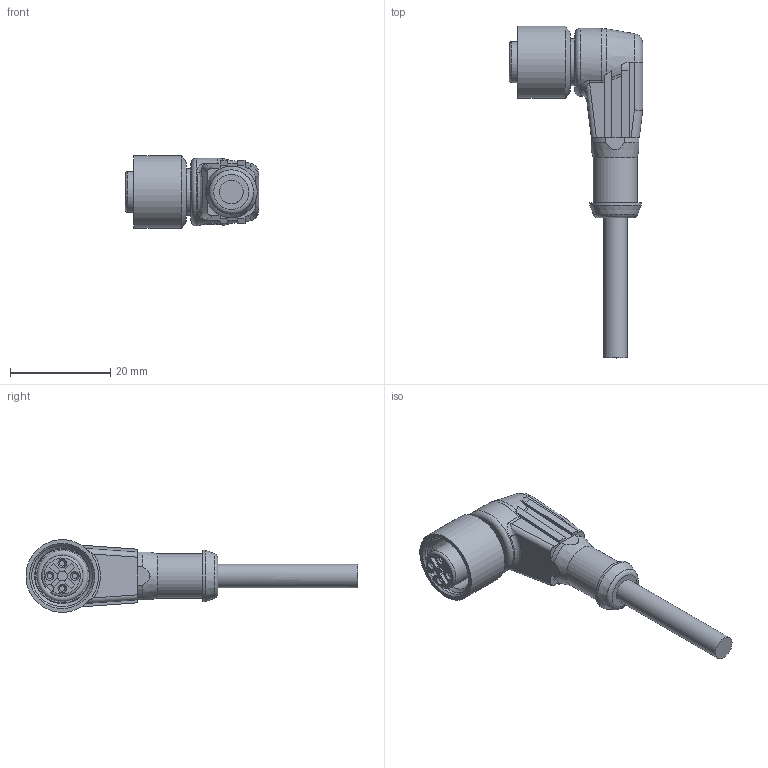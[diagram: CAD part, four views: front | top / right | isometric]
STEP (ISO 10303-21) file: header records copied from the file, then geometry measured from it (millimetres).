
FILE_DESCRIPTION( ( 'Unknown' ), '1' );
FILE_NAME( 'C:/Users/txr10011/Documents/1_in Bearbeitung/151016/Hüllmodelle/RKWT_4-225_xxM.stp', 'Unknown', ( 'Unknown' ), ( 'Unknown' ), 'PSStep 17.0.49', 'Unknown', ' ' );
FILE_SCHEMA( ( 'AUTOMOTIVE_DESIGN { 1 0 10303 214 1 1 1 1 }' ) );
Length unit declared in the file: millimetre
Products named in the file (1): STL 225
Bounding box: 26.6 x 66.18 x 14.44 mm (x, y, z)
Volume: 5796.6 mm3; surface area: 3384.5 mm2
Topology: 1 solids, 1 shells, 155 faces, 406 edges, 266 vertices
Faces by surface type: plane 88, cylinder 35, cone 12, bspline 9, torus 6, extrusion 5
Full cylindrical faces by diameter (mm): 1.1 x4, 2 x1, 4.7 x1, 8.8 x1, 9.4 x1, 10.3 x1, 10.8 x1, 11.05 x1, 12.2 x1, 13.5 x1, 14.5 x1
Entity records: 8387 total; most frequent: CARTESIAN_POINT 3568, ORIENTED_EDGE 724, DIRECTION 704, EDGE_CURVE 362, AXIS2_PLACEMENT_3D 252, VERTEX_POINT 251, VECTOR 200, EDGE_LOOP 198
